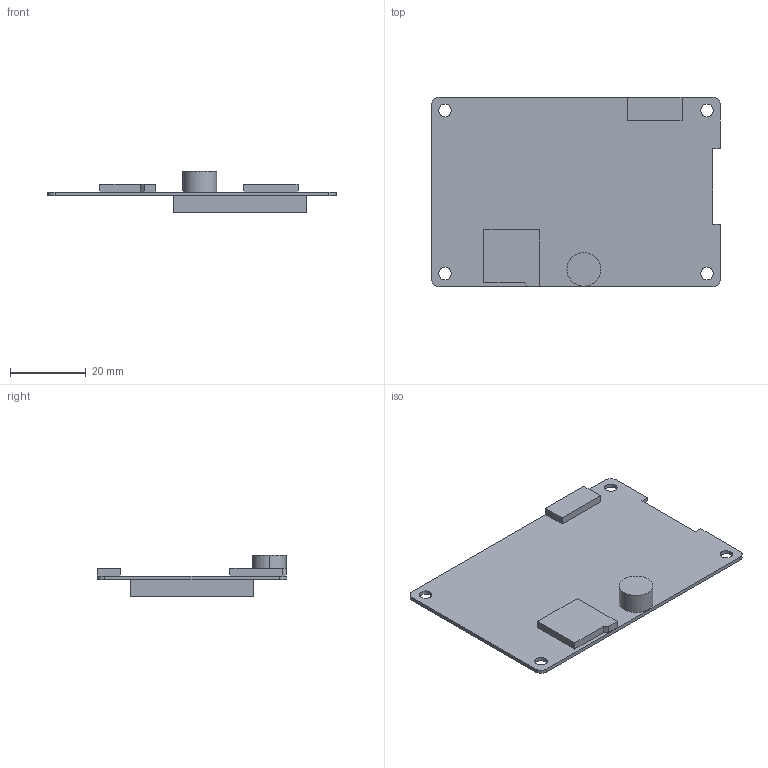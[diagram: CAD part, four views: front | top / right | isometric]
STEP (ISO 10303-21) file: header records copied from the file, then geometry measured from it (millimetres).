
FILE_DESCRIPTION((''),'2;1');
FILE_NAME('3D-DMG24240C015-03WN-221020','2022-10-20T',('Administrator'),(''),'PRO/ENGINEER BY PARAMETRIC TECHNOLOGY CORPORATION, 2008380','PRO/ENGINEER BY PARAMETRIC TECHNOLOGY CORPORATION, 2008380','');
FILE_SCHEMA(('CONFIG_CONTROL_DESIGN'));
Length unit declared in the file: millimetre
Products named in the file (1): 3D-DMG24240C015-03WN-221020
Bounding box: 76 x 50 x 11 mm (x, y, z)
Volume: 9462.3 mm3; surface area: 8745.7 mm2
Topology: 1 solids, 1 shells, 47 faces, 6520 edges, 10936 vertices
Faces by surface type: plane 33, cylinder 14
Entity records: 35440 total; most frequent: DIRECTION 8579, CARTESIAN_POINT 6648, TRIMMED_CURVE 6400, VECTOR 4557, LINE 4557, AXIS2_PLACEMENT_3D 2011, CIRCLE 1963, ORIENTED_EDGE 240
